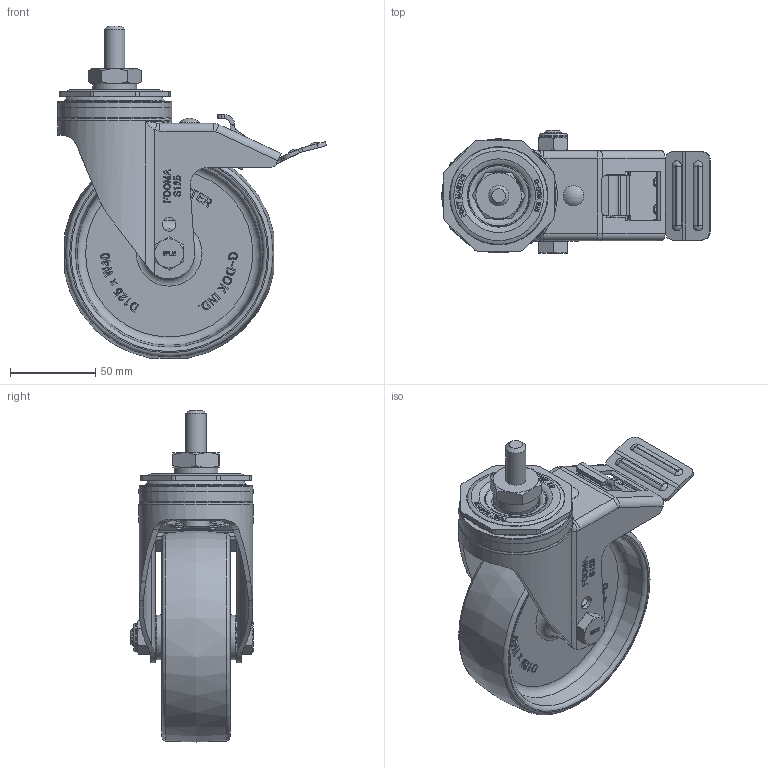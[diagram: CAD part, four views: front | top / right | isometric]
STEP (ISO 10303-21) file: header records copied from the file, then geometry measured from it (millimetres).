
FILE_DESCRIPTION(/* description */ (''),/* implementation_level */ '2;1');
FILE_NAME(/* name */ '\\192.168.10.38\지덕공유\1.기술연구소\2.연구개발 완료\완료_98.스테인레스캐스터 개발건_2023.10.26\제품설계\3D\홈페이지용\NYP\STP\SPLM-125-BSS-NYP-PM12.stp',/* time_stamp */ '2025-07-17T18:00:48+09:00',/* author */ ('admin'),/* organization */ ('지덕산업'),/* preprocessor_version */ 'ST-DEVELOPER v18.1',/* originating_system */ 'Autodesk Inventor 2021',/* authorisation */ '');
FILE_SCHEMA (('CONFIG_CONTROL_DESIGN'));
Products named in the file (1): SPLM-125-BSS-NYP-PM12
Bounding box: 157.79 x 72.3 x 194.96 mm (x, y, z)
Volume: 342393.1 mm3; surface area: 112100.7 mm2
Topology: 1 solids, 1 shells, 1773 faces, 4733 edges, 3055 vertices
Faces by surface type: plane 911, bspline 506, cylinder 253, cone 66, torus 36, sphere 1
Full cylindrical faces by diameter (mm): 6 x1, 7 x3, 8 x2, 9 x1, 10 x2, 11 x1, 12 x2, 16 x2, 16.5 x1, 25.8 x1, 54 x1, 67 x1
Entity records: 56908 total; most frequent: CARTESIAN_POINT 16048, ORIENTED_EDGE 9458, DIRECTION 6781, EDGE_CURVE 4729, VERTEX_POINT 3055, LINE 2863, VECTOR 2863, AXIS2_PLACEMENT_3D 1959
